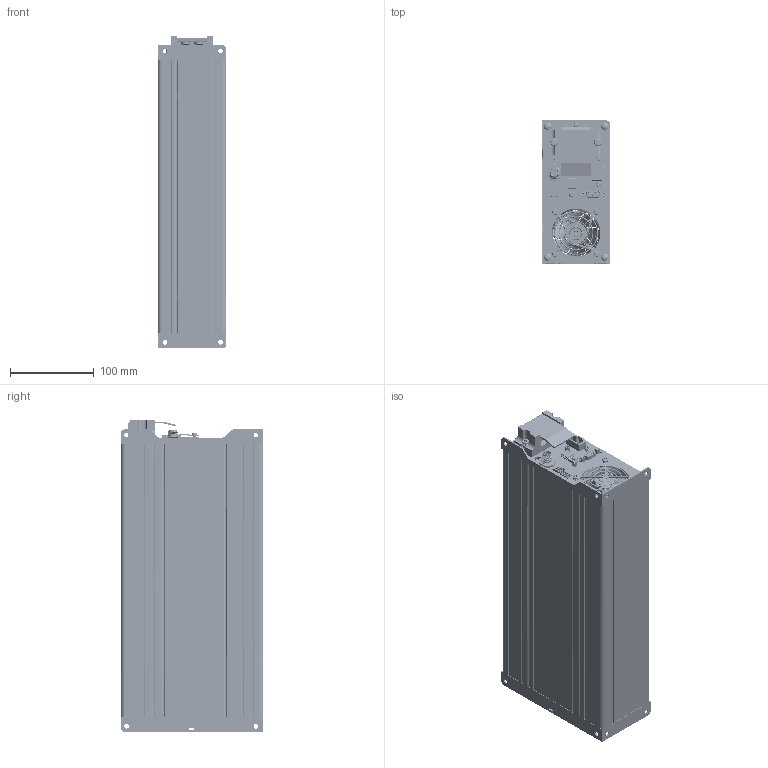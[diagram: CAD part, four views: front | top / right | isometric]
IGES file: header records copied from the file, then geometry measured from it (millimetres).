
Global section: file name: $WPT RX Charger_2021.04.19_Shrinkwrap_1; native system: Autodesk Inventor 2021; preprocessor: unknown; author: eunsol jang; date: 20220119.135259; units: inch
Bounding box: 82 x 170.1 x 372.3 mm (x, y, z)
Volume: 3116672.5 mm3; surface area: 2130864.4 mm2
Topology: 27 solids, 27 shells, 6738 faces, 18714 edges, 12404 vertices
Faces by surface type: bspline 6738
